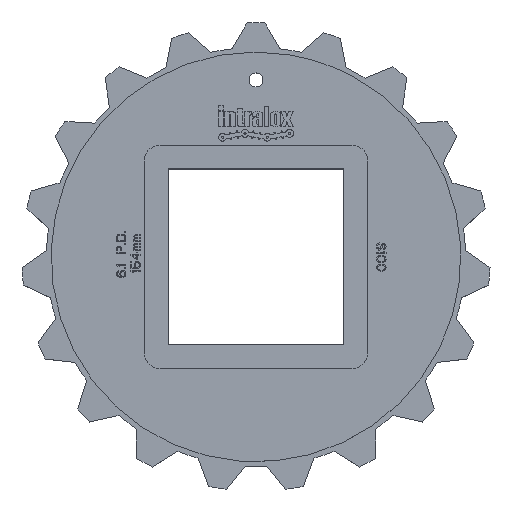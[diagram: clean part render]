
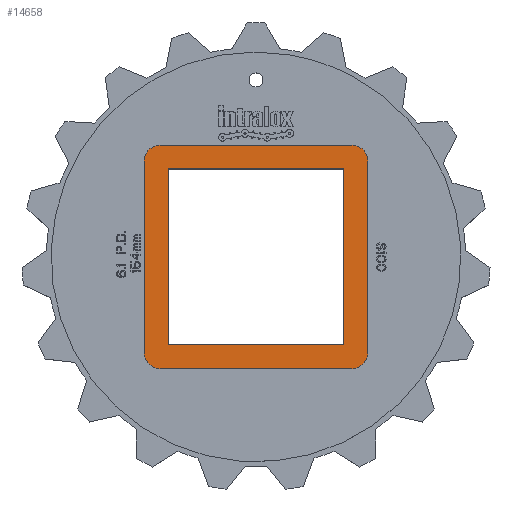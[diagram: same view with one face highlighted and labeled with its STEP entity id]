
A CAD part, top view. The second image highlights one B-rep face of the part: STEP entity #14658.
In plain terms, the highlighted planar face has unit normal (0, 0, 1).
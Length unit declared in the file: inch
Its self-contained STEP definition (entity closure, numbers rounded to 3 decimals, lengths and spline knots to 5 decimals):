
#3401=CARTESIAN_POINT('',(-1.285,1.285,0.61));
#3402=DIRECTION('',(0.,0.,-1.));
#3403=DIRECTION('',(-1.,0.,0.));
#3404=AXIS2_PLACEMENT_3D('',#3401,#3402,#3403);
#3419=CARTESIAN_POINT('',(1.285,1.285,0.61));
#3420=DIRECTION('',(0.,0.,-1.));
#3421=DIRECTION('',(0.,1.,0.));
#3422=AXIS2_PLACEMENT_3D('',#3419,#3420,#3421);
#3437=CARTESIAN_POINT('',(1.285,-1.285,0.61));
#3438=DIRECTION('',(0.,0.,-1.));
#3439=DIRECTION('',(1.,0.,0.));
#3440=AXIS2_PLACEMENT_3D('',#3437,#3438,#3439);
#3455=CARTESIAN_POINT('',(-1.285,-1.285,0.61));
#3456=DIRECTION('',(0.,0.,-1.));
#3457=DIRECTION('',(0.,-1.,0.));
#3458=AXIS2_PLACEMENT_3D('',#3455,#3456,#3457);
#3460=DIRECTION('',(0.,-1.,0.));
#3461=VECTOR('',#3460,2.57);
#3462=CARTESIAN_POINT('',(-1.5,1.285,0.61));
#3463=LINE('',#3462,#3461);
#3464=DIRECTION('',(-1.,0.,0.));
#3465=VECTOR('',#3464,2.57);
#3466=CARTESIAN_POINT('',(1.285,1.5,0.61));
#3467=LINE('',#3466,#3465);
#3468=DIRECTION('',(0.,1.,0.));
#3469=VECTOR('',#3468,2.57);
#3470=CARTESIAN_POINT('',(1.5,-1.285,0.61));
#3471=LINE('',#3470,#3469);
#3472=DIRECTION('',(1.,0.,0.));
#3473=VECTOR('',#3472,2.57);
#3474=CARTESIAN_POINT('',(-1.285,-1.5,0.61));
#3475=LINE('',#3474,#3473);
#3476=DIRECTION('',(0.,-1.,0.));
#3477=VECTOR('',#3476,2.362);
#3478=CARTESIAN_POINT('',(-1.181,1.181,0.61));
#3479=LINE('',#3478,#3477);
#3480=DIRECTION('',(1.,0.,0.));
#3481=VECTOR('',#3480,2.362);
#3482=CARTESIAN_POINT('',(-1.181,-1.181,0.61));
#3483=LINE('',#3482,#3481);
#3484=DIRECTION('',(0.,1.,0.));
#3485=VECTOR('',#3484,2.362);
#3486=CARTESIAN_POINT('',(1.181,-1.181,0.61));
#3487=LINE('',#3486,#3485);
#3488=DIRECTION('',(-1.,0.,0.));
#3489=VECTOR('',#3488,2.362);
#3490=CARTESIAN_POINT('',(1.181,1.181,0.61));
#3491=LINE('',#3490,#3489);
#9026=CARTESIAN_POINT('',(1.285,1.5,0.61));
#9028=VERTEX_POINT('',#9026);
#9030=CARTESIAN_POINT('',(1.5,1.285,0.61));
#9032=VERTEX_POINT('',#9030);
#9034=CARTESIAN_POINT('',(-1.5,1.285,0.61));
#9036=VERTEX_POINT('',#9034);
#9038=CARTESIAN_POINT('',(-1.285,1.5,0.61));
#9040=VERTEX_POINT('',#9038);
#9042=CARTESIAN_POINT('',(-1.285,-1.5,0.61));
#9044=VERTEX_POINT('',#9042);
#9046=CARTESIAN_POINT('',(-1.5,-1.285,0.61));
#9048=VERTEX_POINT('',#9046);
#9050=CARTESIAN_POINT('',(1.5,-1.285,0.61));
#9052=VERTEX_POINT('',#9050);
#9054=CARTESIAN_POINT('',(1.285,-1.5,0.61));
#9056=VERTEX_POINT('',#9054);
#9097=CARTESIAN_POINT('',(-1.181,1.181,0.61));
#9098=CARTESIAN_POINT('',(-1.181,-1.181,0.61));
#9099=VERTEX_POINT('',#9097);
#9100=VERTEX_POINT('',#9098);
#9101=CARTESIAN_POINT('',(1.181,-1.181,0.61));
#9102=VERTEX_POINT('',#9101);
#9103=CARTESIAN_POINT('',(1.181,1.181,0.61));
#9104=VERTEX_POINT('',#9103);
#14633=CARTESIAN_POINT('',(0.,0.,0.61));
#14634=DIRECTION('',(0.,0.,1.));
#14635=DIRECTION('',(1.,0.,0.));
#14636=AXIS2_PLACEMENT_3D('',#14633,#14634,#14635);
#14637=PLANE('',#14636);
#14638=ORIENTED_EDGE('',*,*,#14529,.F.);
#14639=ORIENTED_EDGE('',*,*,#14545,.T.);
#14640=ORIENTED_EDGE('',*,*,#14558,.F.);
#14641=ORIENTED_EDGE('',*,*,#14573,.T.);
#14642=ORIENTED_EDGE('',*,*,#14586,.F.);
#14643=ORIENTED_EDGE('',*,*,#14601,.T.);
#14644=ORIENTED_EDGE('',*,*,#14614,.F.);
#14645=ORIENTED_EDGE('',*,*,#14628,.T.);
#14646=EDGE_LOOP('',(#14638,#14639,#14640,#14641,#14642,#14643,#14644,#14645));
#14647=FACE_OUTER_BOUND('',#14646,.F.);
#14649=ORIENTED_EDGE('',*,*,#14648,.T.);
#14651=ORIENTED_EDGE('',*,*,#14650,.T.);
#14653=ORIENTED_EDGE('',*,*,#14652,.T.);
#14655=ORIENTED_EDGE('',*,*,#14654,.T.);
#14656=EDGE_LOOP('',(#14649,#14651,#14653,#14655));
#14657=FACE_BOUND('',#14656,.F.);
#14658=ADVANCED_FACE('',(#14647,#14657),#14637,.T.);
#3405=CIRCLE('',#3404,0.215);
#3423=CIRCLE('',#3422,0.215);
#3441=CIRCLE('',#3440,0.215);
#3459=CIRCLE('',#3458,0.215);
#14529=EDGE_CURVE('',#9036,#9048,#3463,.T.);
#14545=EDGE_CURVE('',#9036,#9040,#3405,.T.);
#14558=EDGE_CURVE('',#9028,#9040,#3467,.T.);
#14573=EDGE_CURVE('',#9028,#9032,#3423,.T.);
#14586=EDGE_CURVE('',#9052,#9032,#3471,.T.);
#14601=EDGE_CURVE('',#9052,#9056,#3441,.T.);
#14614=EDGE_CURVE('',#9044,#9056,#3475,.T.);
#14628=EDGE_CURVE('',#9044,#9048,#3459,.T.);
#14648=EDGE_CURVE('',#9099,#9100,#3479,.T.);
#14650=EDGE_CURVE('',#9100,#9102,#3483,.T.);
#14652=EDGE_CURVE('',#9102,#9104,#3487,.T.);
#14654=EDGE_CURVE('',#9104,#9099,#3491,.T.);
